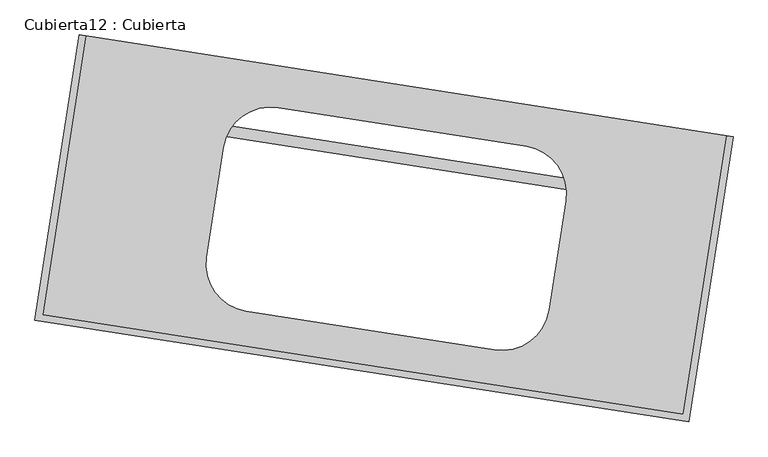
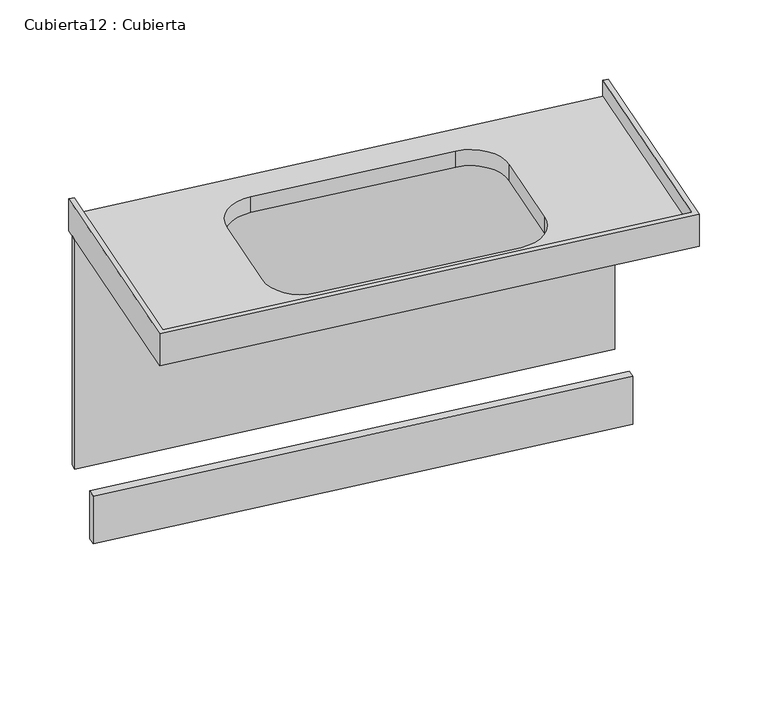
"""IFC4 building model written with IfcOpenShell, lengths in millimetres: furniture geometry, Cubierta12 : Cubierta."""

from ifc_helpers import new_model, si_unit, frame, origin, place, context, project, spatial, polyline, circle_curve, outline, extrude, source, transform, mapped, element, save
from ifc_brep_helpers import plane_surface, revolved_surface, advanced_brep


def cubierta12_cubierta_d5aa67de(model_context):
    return source(origin(), model_context, "Body", "SolidModel", [
        extrude(outline(polyline([(-42536.0283439, -60464.5547601), (-42539.8785909, -60489.2564928), (-44012.1018536, -60259.7817736), (-44008.2516066, -60235.0800409), (-42536.0283439, -60464.5547601)])), frame((0.0, 0.0, 6400.0), z_axis=(0.0, 0.0, 1.0), x_axis=(1.0, 0.0, 0.0)), (0.0, 0.0, 1.0), 150.0),
        extrude(outline(polyline([(-42516.777109, -60341.0460966), (-42519.8573066, -60360.8074828), (-43992.0805693, -60131.3327636), (-43989.0003717, -60111.5713774), (-42516.777109, -60341.0460966)])), frame((0.0, 0.0, 6550.0), z_axis=(0.0, 0.0, 1.0), x_axis=(1.0, 0.0, 0.0)), (0.0, 0.0, 1.0), 720.0),
        advanced_brep(
        [(-42527.7479016, -60314.0342157, 7320.0), (-43970.3290851, -60089.1797929, 7320.0), (-44068.1253584, -60716.6038034, 7320.0), (-42625.5441749, -60941.4582262, 7320.0), (-43659.75312, -60340.004067, 7320.0), (-43537.550647, -60250.7597082, 7320.0), (-42979.2914881, -60337.7752899, 7320.0), (-42890.0471292, -60459.977763, 7320.0), (-42928.549599, -60706.9950899, 7320.0), (-43050.752072, -60796.2394488, 7320.0), (-43609.011231, -60709.223867, 7320.0), (-43698.2555898, -60587.021394, 7320.0), (-42613.0332835, -60958.5894141, 7270.0), (-44085.2565462, -60729.1146949, 7270.0), (-43985.1501247, -60086.8696447, 7270.0), (-42512.9268621, -60316.3443639, 7270.0), (-43659.75312, -60340.004067, 7270.0), (-43698.2555898, -60587.021394, 7270.0), (-43609.011231, -60709.223867, 7270.0), (-43050.752072, -60796.2394488, 7270.0), (-42928.549599, -60706.9950899, 7270.0), (-42890.0471292, -60459.977763, 7270.0), (-42979.2914881, -60337.7752899, 7270.0), (-43537.550647, -60250.7597082, 7270.0), (-43985.1501247, -60086.8696447, 7370.0), (-43970.3290851, -60089.1797929, 7370.0), (-42527.7479016, -60314.0342157, 7370.0), (-42512.9268619, -60316.3443639, 7370.0), (-42625.5441749, -60941.4582262, 7370.0), (-44068.1253584, -60716.6038034, 7370.0), (-42613.0332835, -60958.589414, 7370.0), (-44085.2565462, -60729.1146948, 7370.0)],
        [
            (0, 1),
            (1, 2),
            (2, 3),
            (3, 0),
            (4, 5, circle_curve(frame((-43554.0297041, -60356.4831241, 7320.0), z_axis=(0.0, 0.0, -1.0), x_axis=(0.9880693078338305, -0.15400987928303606, 0.0)), 107.0)),
            (5, 6),
            (6, 7, circle_curve(frame((-42995.7705451, -60443.4987059, 7320.0), z_axis=(0.0, 0.0, -1.0), x_axis=(0.9880693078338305, -0.15400987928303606, 0.0)), 107.0)),
            (7, 8),
            (8, 9, circle_curve(frame((-43034.273015, -60690.5160328, 7320.0), z_axis=(0.0, 0.0, -1.0), x_axis=(0.9880693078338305, -0.15400987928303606, 0.0)), 107.0)),
            (9, 10),
            (10, 11, circle_curve(frame((-43592.5321739, -60603.5004511, 7320.0), z_axis=(0.0, 0.0, -1.0), x_axis=(0.9880693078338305, -0.15400987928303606, 0.0)), 107.0)),
            (11, 4),
            (12, 13),
            (13, 14),
            (14, 15),
            (15, 12),
            (16, 17),
            (17, 18, circle_curve(frame((-43592.5321739, -60603.5004511, 7270.0), z_axis=(0.0, 0.0, 1.0), x_axis=(0.9880693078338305, -0.15400987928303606, 0.0)), 107.0)),
            (18, 19),
            (19, 20, circle_curve(frame((-43034.273015, -60690.5160328, 7270.0), z_axis=(0.0, 0.0, 1.0), x_axis=(0.9880693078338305, -0.15400987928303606, 0.0)), 107.0)),
            (20, 21),
            (21, 22, circle_curve(frame((-42995.7705451, -60443.4987059, 7270.0), z_axis=(0.0, 0.0, 1.0), x_axis=(0.9880693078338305, -0.15400987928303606, 0.0)), 107.0)),
            (22, 23),
            (23, 16, circle_curve(frame((-43554.0297041, -60356.4831241, 7270.0), z_axis=(0.0, 0.0, 1.0), x_axis=(0.9880693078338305, -0.15400987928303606, 0.0)), 107.0)),
            (14, 24),
            (24, 25),
            (25, 1),
            (0, 26),
            (26, 27),
            (27, 15),
            (28, 3),
            (2, 29),
            (29, 28),
            (30, 31),
            (31, 13),
            (12, 30),
            (11, 17),
            (16, 4),
            (10, 18),
            (9, 19),
            (8, 20),
            (7, 21),
            (6, 22),
            (5, 23),
            (27, 30),
            (28, 26),
            (29, 25),
            (24, 31),
        ],
        [
            plane_surface(frame((-42514.4669603, -60326.2250534, 7320.0), z_axis=(0.0, 0.0, 1.0), x_axis=(0.1540098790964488, 0.9880693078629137, 0.0))),
            plane_surface(frame((-42514.4669603, -60326.2250534, 7270.0), z_axis=(0.0, 0.0, -1.0), x_axis=(-0.1540098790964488, -0.9880693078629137, 0.0))),
            plane_surface(frame((-42512.9268619, -60316.3443639, 6420.0), z_axis=(0.15400987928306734, 0.9880693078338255, 0.0), x_axis=(0.0, 0.0, 1.0))),
            plane_surface(frame((-42625.5441749, -60941.4582262, 7320.0), z_axis=(0.15400987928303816, 0.9880693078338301, 0.0), x_axis=(-0.9880693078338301, 0.15400987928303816, 0.0))),
            plane_surface(frame((-42613.0332835, -60958.589414, 7370.0), z_axis=(-0.15400987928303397, -0.9880693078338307, 0.0), x_axis=(-0.9880693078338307, 0.15400987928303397, 0.0))),
            plane_surface(frame((-43698.2555898, -60587.021394, 7320.0), z_axis=(0.9880693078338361, -0.15400987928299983, 0.0), x_axis=(0.0, 0.0, -1.0))),
            revolved_surface(polyline([(-43486.80875796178, -60619.979508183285, 7270.0), (-43486.80875796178, -60619.979508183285, 7320.0)]), (-43592.5321739, -60603.5004511, 6420.0), (0.0, 0.0, -1.0000000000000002)),
            plane_surface(frame((-43050.752072, -60796.2394488, 7320.0), z_axis=(0.15400987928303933, 0.98806930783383, 0.0), x_axis=(0.0, 0.0, -1.0))),
            revolved_surface(polyline([(-42928.54959906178, -60706.99508988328, 7270.0), (-42928.54959906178, -60706.99508988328, 7320.0)]), (-43034.273015, -60690.5160328, 6420.0), (0.0, 0.0, -1.0000000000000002)),
            plane_surface(frame((-42890.0471292, -60459.977763, 7320.0), z_axis=(-0.9880693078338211, 0.15400987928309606, 0.0), x_axis=(0.0, 0.0, -1.0))),
            revolved_surface(polyline([(-42890.04712916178, -60459.97776298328, 7270.0), (-42890.04712916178, -60459.97776298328, 7320.0)]), (-42995.7705451, -60443.4987059, 6420.0), (0.0, 0.0, -1.0000000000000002)),
            plane_surface(frame((-43537.550647, -60250.7597082, 7320.0), z_axis=(-0.1540098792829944, -0.9880693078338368, 0.0), x_axis=(0.0, 0.0, -1.0))),
            revolved_surface(polyline([(-43448.30628816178, -60372.962181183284, 7270.0), (-43448.30628816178, -60372.962181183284, 7320.0)]), (-43554.0297041, -60356.4831241, 6420.0), (0.0, 0.0, -1.0000000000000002)),
            plane_surface(frame((-42512.9268619, -60316.3443639, 7370.0), z_axis=(0.988069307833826, -0.1540098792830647, 0.0), x_axis=(-0.1540098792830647, -0.988069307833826, 0.0))),
            plane_surface(frame((-42527.7479016, -60314.0342157, 7320.0), z_axis=(-0.9880693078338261, 0.1540098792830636, 0.0), x_axis=(-0.1540098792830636, -0.9880693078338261, 0.0))),
            plane_surface(frame((-42527.7479016, -60314.0342157, 7370.0), z_axis=(0.0, 0.0, 1.0), x_axis=(-0.1540098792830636, -0.9880693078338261, 0.0))),
            plane_surface(frame((-44085.2565462, -60729.1146948, 7370.0), z_axis=(-0.9880693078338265, 0.15400987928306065, 0.0), x_axis=(0.15400987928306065, 0.9880693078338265, 0.0))),
            plane_surface(frame((-44068.1253584, -60716.6038034, 7320.0), z_axis=(0.9880693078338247, -0.15400987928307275, 0.0), x_axis=(0.15400987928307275, 0.9880693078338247, 0.0))),
        ],
        [
            (0, [[1, 2, 3, 4], [5, 6, 7, 8, 9, 10, 11, 12]]),
            (1, [[13, 14, 15, 16], [17, 18, 19, 20, 21, 22, 23, 24]]),
            (2, [[-15, 25, 26, 27, -1, 28, 29, 30]]),
            (3, [[31, -3, 32, 33]]),
            (4, [[34, 35, -13, 36]]),
            (5, [[-12, 37, -17, 38]]),
            (6, [[-11, 39, -18, -37]]),
            (7, [[-10, 40, -19, -39]]),
            (8, [[-9, 41, -20, -40]]),
            (9, [[-8, 42, -21, -41]]),
            (10, [[-7, 43, -22, -42]]),
            (11, [[-6, 44, -23, -43]]),
            (12, [[-5, -38, -24, -44]]),
            (13, [[-30, 45, -36, -16]]),
            (14, [[-28, -4, -31, 46]]),
            (15, [[-29, -46, -33, 47, -26, 48, -34, -45]]),
            (16, [[-35, -48, -25, -14]]),
            (17, [[-32, -2, -27, -47]]),
        ],
    ),
    ])


if __name__ == "__main__":
    model = new_model("IFC4")
    model_context = context("Model", 3, world=origin())
    ifc_project = project(units=[si_unit("LENGTHUNIT", "METRE", prefix="MILLI")], contexts=[model_context])
    site = spatial("IfcSite", under=ifc_project)
    building = spatial("IfcBuilding", under=site)
    placement = place(None, origin())
    cubierta12_cubierta_shape = cubierta12_cubierta_d5aa67de(model_context)
    element("IfcFurniture", 1, ObjectType="Cubierta12 : Cubierta", at=placement, inside=building, context=model_context, shape_type="MappedRepresentation", body=[
        mapped(cubierta12_cubierta_shape, transform((0.0, 0.0, 0.0), x_axis=(1.0, 0.0, 0.0), y_axis=(0.0, 1.0, 0.0), z_axis=(0.0, 0.0, 1.0))),
    ])
    save(model, "model.ifc")
